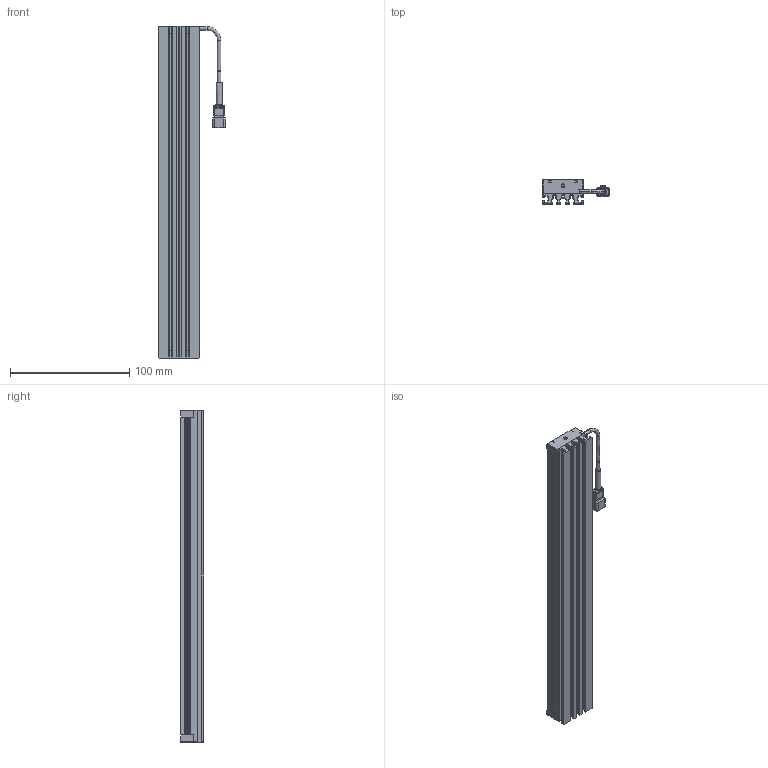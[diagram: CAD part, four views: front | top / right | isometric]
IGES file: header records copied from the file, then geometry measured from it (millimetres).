
Start section: SolidWorks IGES file using NURBS representation for surfaces
Global section: file name: U:\PRODUCTS\80_その他テーマ\RD32114_LDL2-GR2特注の標準化\02_図面\提出用\3D\39_LDL2-266X30GR2\LDL2-266X30GR2.IGS; native system: SolidWorks 2022; preprocessor: SolidWorks 2022; author: takaomc; date: 241001.112250; units: millimetre
Bounding box: 55.75 x 20 x 278 mm (x, y, z)
Surface area: 84235.1 mm2 (no closed solid volume)
Topology: 0 solids, 0 shells, 481 faces, 4582 edges, 4566 vertices
Faces by surface type: bspline 481
